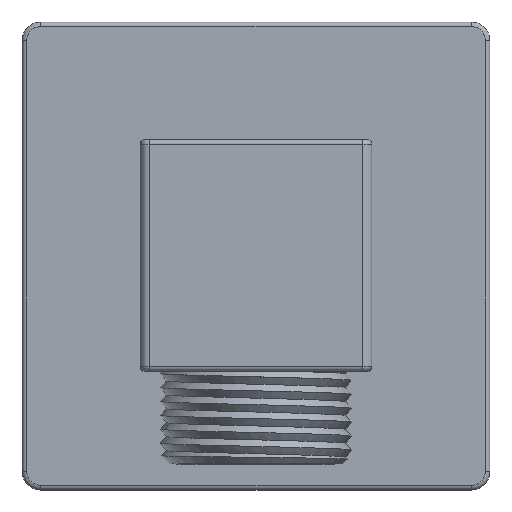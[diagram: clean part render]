
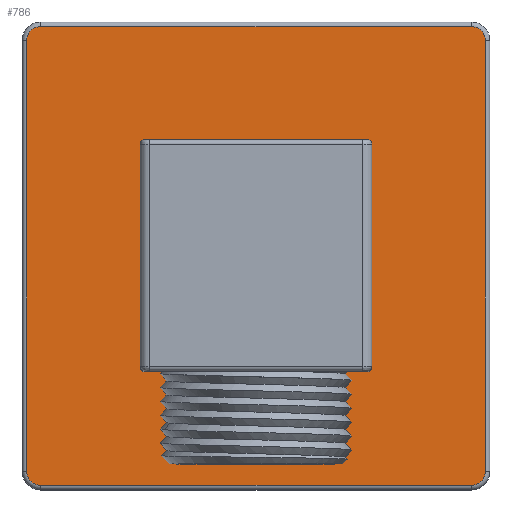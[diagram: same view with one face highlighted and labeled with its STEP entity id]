
A CAD part, top view. The second image highlights one B-rep face of the part: STEP entity #786.
In plain terms, the highlighted planar face has unit normal (0, 0, 1).
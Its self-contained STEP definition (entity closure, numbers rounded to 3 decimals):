
#41=FACE_BOUND('',#255,.T.);
#48=PLANE('',#870);
#71=LINE('',#1213,#125);
#75=LINE('',#1249,#129);
#85=LINE('',#1287,#139);
#86=LINE('',#1291,#140);
#87=LINE('',#1295,#141);
#88=LINE('',#1299,#142);
#89=LINE('',#1301,#143);
#90=LINE('',#1302,#144);
#125=VECTOR('',#963,10.);
#129=VECTOR('',#983,10.);
#139=VECTOR('',#1021,10.);
#140=VECTOR('',#1024,10.);
#141=VECTOR('',#1027,10.);
#142=VECTOR('',#1030,10.);
#143=VECTOR('',#1033,10.);
#144=VECTOR('',#1034,10.);
#205=FACE_OUTER_BOUND('',#254,.T.);
#254=EDGE_LOOP('',(#598,#599,#600,#601,#602,#603,#604,#605));
#255=EDGE_LOOP('',(#606,#607,#608,#609,#610,#611,#612,#613));
#306=CIRCLE('',#858,0.5);
#307=CIRCLE('',#860,0.5);
#308=CIRCLE('',#862,0.5);
#309=CIRCLE('',#864,0.5);
#314=CIRCLE('',#871,1.5);
#315=CIRCLE('',#872,1.5);
#316=CIRCLE('',#873,1.5);
#317=CIRCLE('',#874,1.5);
#348=VERTEX_POINT('',#1210);
#349=VERTEX_POINT('',#1212);
#354=VERTEX_POINT('',#1246);
#355=VERTEX_POINT('',#1248);
#356=VERTEX_POINT('',#1254);
#357=VERTEX_POINT('',#1258);
#358=VERTEX_POINT('',#1260);
#359=VERTEX_POINT('',#1264);
#368=VERTEX_POINT('',#1285);
#369=VERTEX_POINT('',#1286);
#370=VERTEX_POINT('',#1288);
#371=VERTEX_POINT('',#1290);
#372=VERTEX_POINT('',#1292);
#373=VERTEX_POINT('',#1294);
#374=VERTEX_POINT('',#1296);
#375=VERTEX_POINT('',#1298);
#428=EDGE_CURVE('',#348,#349,#71,.T.);
#438=EDGE_CURVE('',#354,#355,#75,.T.);
#440=EDGE_CURVE('',#349,#354,#306,.T.);
#441=EDGE_CURVE('',#355,#356,#307,.T.);
#444=EDGE_CURVE('',#358,#357,#308,.T.);
#447=EDGE_CURVE('',#348,#359,#309,.T.);
#456=EDGE_CURVE('',#368,#369,#85,.T.);
#457=EDGE_CURVE('',#369,#370,#314,.T.);
#458=EDGE_CURVE('',#370,#371,#86,.T.);
#459=EDGE_CURVE('',#371,#372,#315,.T.);
#460=EDGE_CURVE('',#372,#373,#87,.T.);
#461=EDGE_CURVE('',#373,#374,#316,.T.);
#462=EDGE_CURVE('',#374,#375,#88,.T.);
#463=EDGE_CURVE('',#375,#368,#317,.T.);
#464=EDGE_CURVE('',#358,#359,#89,.T.);
#465=EDGE_CURVE('',#356,#357,#90,.T.);
#598=ORIENTED_EDGE('',*,*,#456,.T.);
#599=ORIENTED_EDGE('',*,*,#457,.T.);
#600=ORIENTED_EDGE('',*,*,#458,.T.);
#601=ORIENTED_EDGE('',*,*,#459,.T.);
#602=ORIENTED_EDGE('',*,*,#460,.T.);
#603=ORIENTED_EDGE('',*,*,#461,.T.);
#604=ORIENTED_EDGE('',*,*,#462,.T.);
#605=ORIENTED_EDGE('',*,*,#463,.T.);
#606=ORIENTED_EDGE('',*,*,#447,.T.);
#607=ORIENTED_EDGE('',*,*,#464,.F.);
#608=ORIENTED_EDGE('',*,*,#444,.T.);
#609=ORIENTED_EDGE('',*,*,#465,.F.);
#610=ORIENTED_EDGE('',*,*,#441,.F.);
#611=ORIENTED_EDGE('',*,*,#438,.F.);
#612=ORIENTED_EDGE('',*,*,#440,.F.);
#613=ORIENTED_EDGE('',*,*,#428,.F.);
#786=ADVANCED_FACE('',(#205,#41),#48,.T.);
#858=AXIS2_PLACEMENT_3D('',#1252,#987,#988);
#860=AXIS2_PLACEMENT_3D('',#1255,#991,#992);
#862=AXIS2_PLACEMENT_3D('',#1261,#997,#998);
#864=AXIS2_PLACEMENT_3D('',#1266,#1003,#1004);
#870=AXIS2_PLACEMENT_3D('',#1284,#1019,#1020);
#871=AXIS2_PLACEMENT_3D('',#1289,#1022,#1023);
#872=AXIS2_PLACEMENT_3D('',#1293,#1025,#1026);
#873=AXIS2_PLACEMENT_3D('',#1297,#1028,#1029);
#874=AXIS2_PLACEMENT_3D('',#1300,#1031,#1032);
#963=DIRECTION('',(-1.,0.,0.));
#983=DIRECTION('',(0.,-1.,0.));
#987=DIRECTION('center_axis',(0.,0.,
1.));
#988=DIRECTION('ref_axis',(-1.,0.,0.));
#991=DIRECTION('center_axis',(0.,0.,1.));
#992=DIRECTION('ref_axis',(0.,-1.,0.));
#997=DIRECTION('center_axis',(0.,0.,
-1.));
#998=DIRECTION('ref_axis',(0.,-1.,0.));
#1003=DIRECTION('center_axis',(0.,0.,
-1.));
#1004=DIRECTION('ref_axis',(1.,0.,0.));
#1019=DIRECTION('center_axis',(0.,0.,1.));
#1020=DIRECTION('ref_axis',(1.,0.,0.));
#1021=DIRECTION('',(-1.,0.,0.));
#1022=DIRECTION('center_axis',(0.,0.,
1.));
#1023=DIRECTION('ref_axis',(-1.,0.,0.));
#1024=DIRECTION('',(0.,-1.,0.));
#1025=DIRECTION('center_axis',(0.,0.,
1.));
#1026=DIRECTION('ref_axis',(0.,-1.,0.));
#1027=DIRECTION('',(1.,0.,0.));
#1028=DIRECTION('center_axis',(0.,0.,
1.));
#1029=DIRECTION('ref_axis',(1.,0.,0.));
#1030=DIRECTION('',(0.,1.,0.));
#1031=DIRECTION('center_axis',(0.,0.,1.));
#1032=DIRECTION('ref_axis',(0.,1.,0.));
#1033=DIRECTION('',(0.,1.,0.));
#1034=DIRECTION('',(1.,0.,0.));
#1210=CARTESIAN_POINT('',(12.,12.5,9.));
#1212=CARTESIAN_POINT('',(-12.,12.5,9.));
#1213=CARTESIAN_POINT('',(12.,12.5,9.));
#1246=CARTESIAN_POINT('',(-12.5,12.,9.));
#1248=CARTESIAN_POINT('',(-12.5,-12.,9.));
#1249=CARTESIAN_POINT('',(-12.5,12.,9.));
#1252=CARTESIAN_POINT('Origin',(-12.,12.,9.));
#1254=CARTESIAN_POINT('',(-12.,-12.5,9.));
#1255=CARTESIAN_POINT('Origin',(-12.,-12.,9.));
#1258=CARTESIAN_POINT('',(12.,-12.5,9.));
#1260=CARTESIAN_POINT('',(12.5,-12.,9.));
#1261=CARTESIAN_POINT('Origin',(12.,-12.,9.));
#1264=CARTESIAN_POINT('',(12.5,12.,9.));
#1266=CARTESIAN_POINT('Origin',(12.,12.,9.));
#1284=CARTESIAN_POINT('Origin',(0.,-27.775,9.));
#1285=CARTESIAN_POINT('',(23.25,24.75,9.));
#1286=CARTESIAN_POINT('',(-23.25,24.75,9.));
#1287=CARTESIAN_POINT('',(23.25,24.75,9.));
#1288=CARTESIAN_POINT('',(-24.75,23.25,9.));
#1289=CARTESIAN_POINT('Origin',(-23.25,23.25,9.));
#1290=CARTESIAN_POINT('',(-24.75,-23.25,9.));
#1291=CARTESIAN_POINT('',(-24.75,23.25,9.));
#1292=CARTESIAN_POINT('',(-23.25,-24.75,9.));
#1293=CARTESIAN_POINT('Origin',(-23.25,-23.25,9.));
#1294=CARTESIAN_POINT('',(23.25,-24.75,9.));
#1295=CARTESIAN_POINT('',(-23.25,-24.75,9.));
#1296=CARTESIAN_POINT('',(24.75,-23.25,9.));
#1297=CARTESIAN_POINT('Origin',(23.25,-23.25,9.));
#1298=CARTESIAN_POINT('',(24.75,23.25,9.));
#1299=CARTESIAN_POINT('',(24.75,-23.25,9.));
#1300=CARTESIAN_POINT('Origin',(23.25,23.25,9.));
#1301=CARTESIAN_POINT('',(12.5,-12.,9.));
#1302=CARTESIAN_POINT('',(-12.,-12.5,9.));
